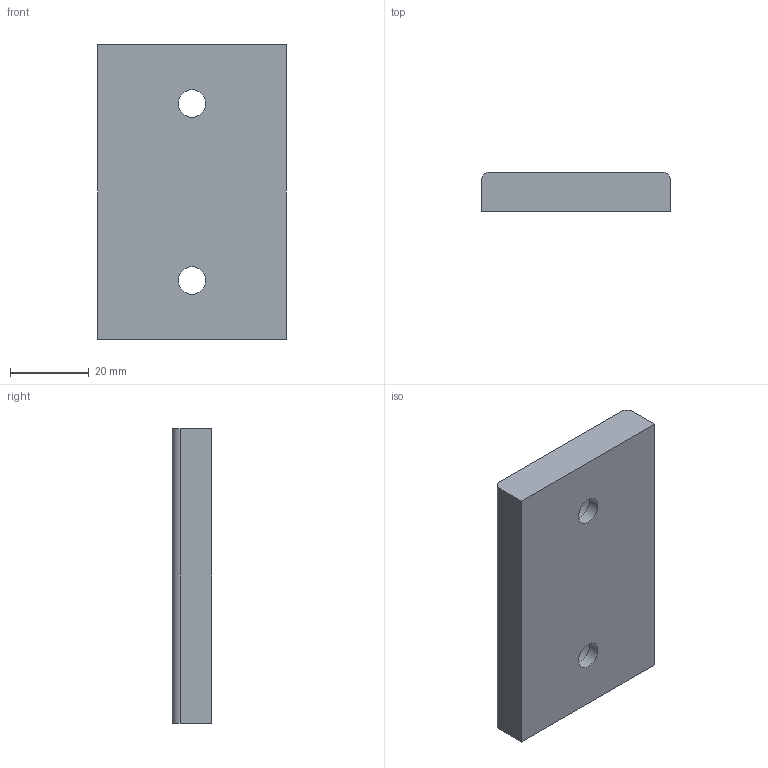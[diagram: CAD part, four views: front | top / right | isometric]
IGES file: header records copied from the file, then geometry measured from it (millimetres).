
Start section: Data from Parasolid IGES Translator 20.0.26, Copyright(c) 2006 Siemens P LM Software. All Rights Reserved.
Global section: file name: G220-01-048-075.igs; native system: By Siemens PLM Incorporated; preprocessor: XPlus GENERIC/IGES 20.0.26; author: Noname; organization: Noname; date: 20190708.082208; units: millimetre
Bounding box: 48 x 10 x 75 mm (x, y, z)
Surface area: 9989.6 mm2 (no closed solid volume)
Topology: 0 solids, 0 shells, 14 faces, 60 edges, 54 vertices
Faces by surface type: extrusion 8, revolution 6
